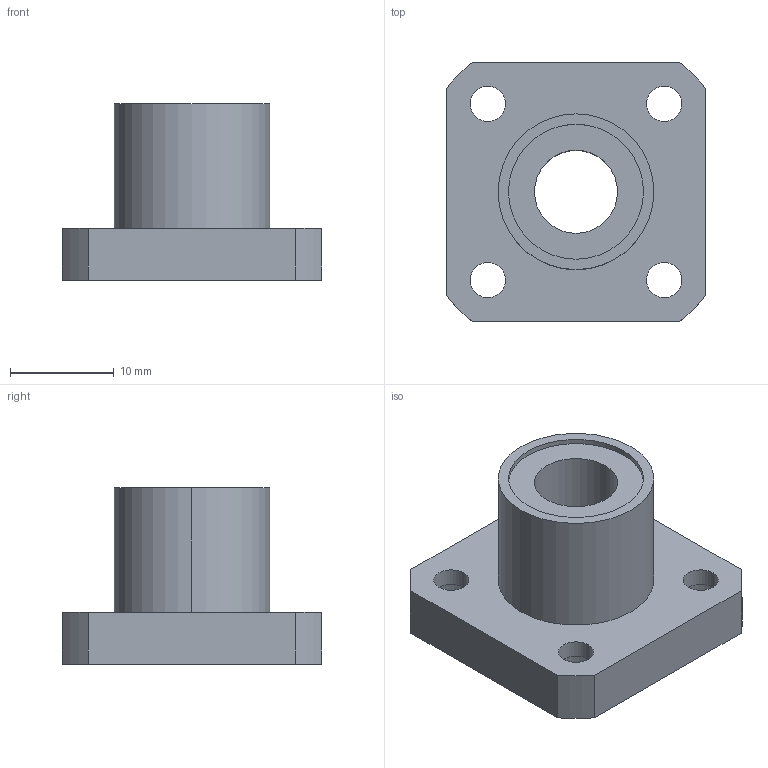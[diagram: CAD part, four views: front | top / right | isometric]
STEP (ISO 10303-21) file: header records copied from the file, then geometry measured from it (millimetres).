
FILE_DESCRIPTION((''),'2;1');
FILE_NAME('C:\Documents and Settings\ｿﾀﾀ蠑ｷ1\ｹﾙﾅﾁ ﾈｭｸ饅\ｺﾎﾇｰﾆﾄﾀﾏ\ﾁｦﾇｰ\LMK__UU\LMK8SUU.stp','2005-06-15T09:46:17',('ｿﾀﾀ蠑ｷ1'),(''),'Autodesk Inventor 9','Autodesk Inventor 9','');
FILE_SCHEMA(('AUTOMOTIVE_DESIGN { 1 0 10303 214 1 1 1 1 }'));
Length unit declared in the file: millimetre
Products named in the file (1): LMK__
Bounding box: 25 x 25 x 17 mm (x, y, z)
Volume: 3687.2 mm3; surface area: 2885.8 mm2
Topology: 1 solids, 1 shells, 44 faces, 102 edges, 68 vertices
Faces by surface type: cylinder 30, plane 14
Entity records: 1329 total; most frequent: DIRECTION 252, CARTESIAN_POINT 215, ORIENTED_EDGE 204, AXIS2_PLACEMENT_3D 105, EDGE_CURVE 102, VERTEX_POINT 68, EDGE_LOOP 62, CIRCLE 60
